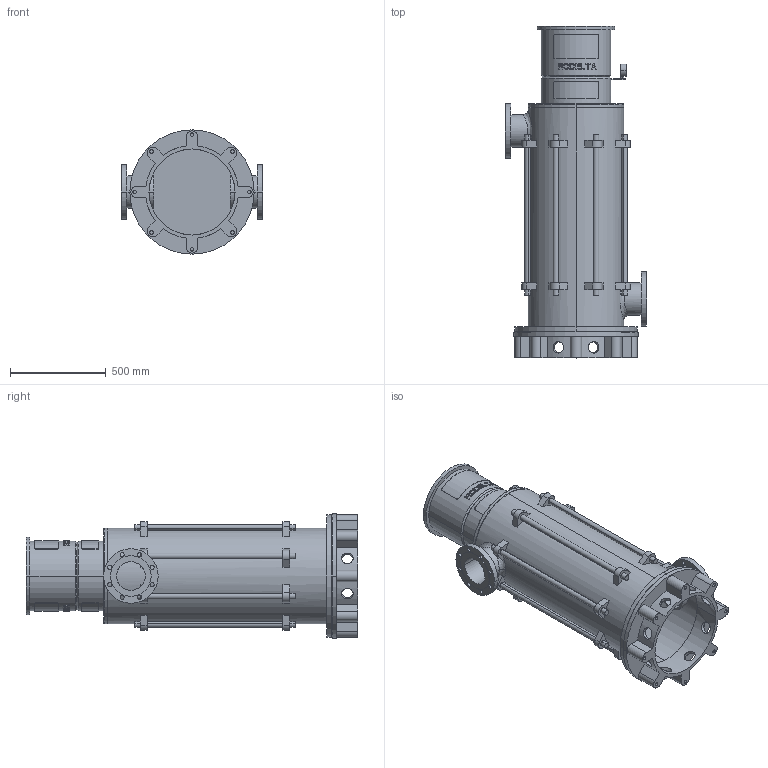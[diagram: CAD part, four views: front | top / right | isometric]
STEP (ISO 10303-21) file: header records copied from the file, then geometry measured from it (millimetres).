
FILE_DESCRIPTION((''),'2;1');
FILE_NAME('LS6_5TR_0GR_PN16_TOT_30KW','2025-10-23T16:01:37',('Lyritlocal'),(''),'CREO PARAMETRIC BY PTC INC, 2022014','CREO PARAMETRIC BY PTC INC, 2022014','');
FILE_SCHEMA(('CONFIG_CONTROL_DESIGN'));
Length unit declared in the file: millimetre
Products named in the file (1): LS6_5TR_0GR_PN16_TOT_30KW
Bounding box: 740 x 1735 x 650 mm (x, y, z)
Volume: 52530671.5 mm3; surface area: 7319932.4 mm2
Topology: 3 solids, 11 shells, 732 faces, 1889 edges, 1258 vertices
Faces by surface type: plane 438, cylinder 274, cone 12, bspline 8
Entity records: 24200 total; most frequent: CARTESIAN_POINT 6380, ORIENTED_EDGE 3746, DIRECTION 3535, EDGE_CURVE 1889, AXIS2_PLACEMENT_3D 1341, VERTEX_POINT 1258, EDGE_LOOP 895, VECTOR 853
